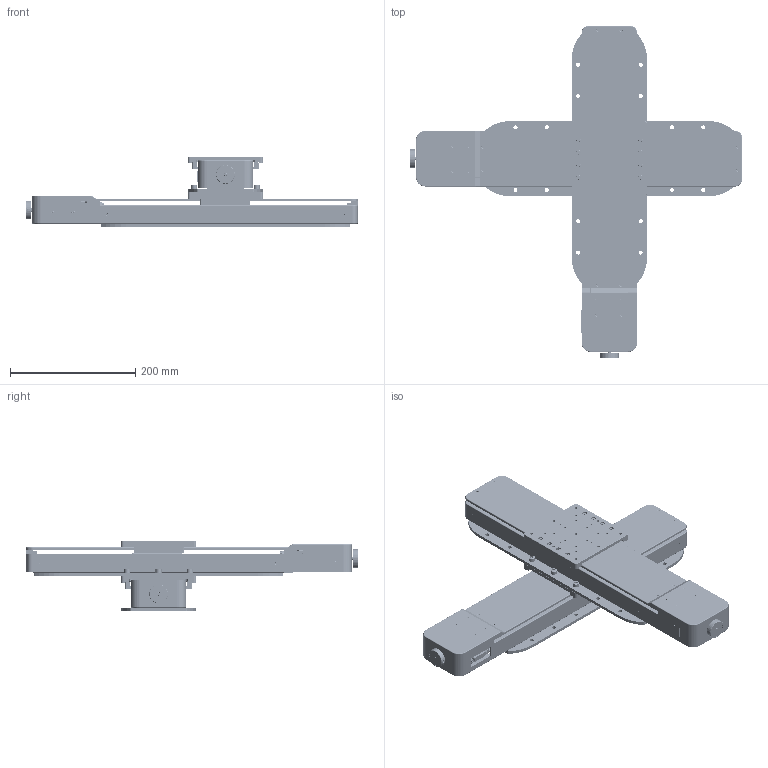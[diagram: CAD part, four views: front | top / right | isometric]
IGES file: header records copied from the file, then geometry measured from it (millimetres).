
Global section: file name: No Iges File Name specified; native system: AutoDesk Inventor R12.0; preprocessor: AutoDesk Inventor Iges Exporter R12.0; date: 20140324.154801; units: millimetre
Bounding box: 530.3 x 530.3 x 113.4 mm (x, y, z)
Volume: 2310622.6 mm3; surface area: 1080070 mm2
Topology: 4 solids, 198 shells, 5932 faces, 14540 edges, 9136 vertices
Faces by surface type: plane 3038, bspline 1184, cylinder 854, cone 500, revolution 300, torus 48, sphere 8
